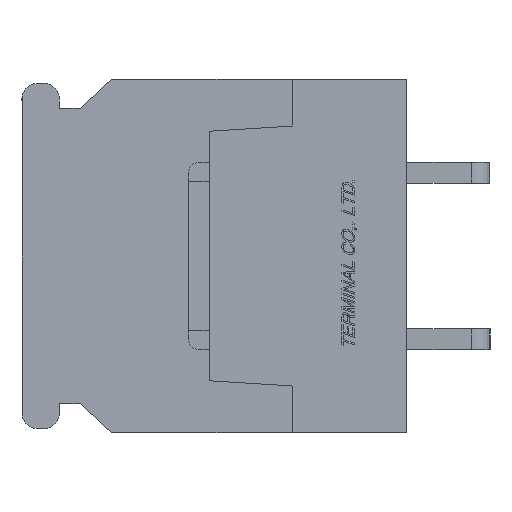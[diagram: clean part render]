
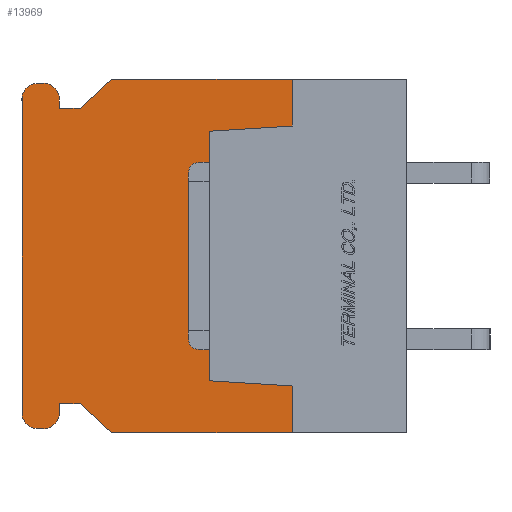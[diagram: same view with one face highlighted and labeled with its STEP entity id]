
A CAD part, left-side view. The second image highlights one B-rep face of the part: STEP entity #13969.
In plain terms, the highlighted planar face has unit normal (-1, 0, 0).
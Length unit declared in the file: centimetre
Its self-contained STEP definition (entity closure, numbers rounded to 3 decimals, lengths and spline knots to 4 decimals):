
#823=CIRCLE('',#23994,0.075);
#824=CIRCLE('',#23995,0.075);
#825=CIRCLE('',#23996,0.075);
#826=CIRCLE('',#23997,0.075);
#1397=VERTEX_POINT('',#19718);
#1398=VERTEX_POINT('',#19720);
#1434=VERTEX_POINT('',#19822);
#1435=VERTEX_POINT('',#19824);
#1525=VERTEX_POINT('',#20134);
#1526=VERTEX_POINT('',#20136);
#1527=VERTEX_POINT('',#20138);
#1528=VERTEX_POINT('',#20140);
#1529=VERTEX_POINT('',#20142);
#1530=VERTEX_POINT('',#20144);
#1531=VERTEX_POINT('',#20146);
#1532=VERTEX_POINT('',#20148);
#1533=VERTEX_POINT('',#20150);
#1534=VERTEX_POINT('',#20152);
#1535=VERTEX_POINT('',#20154);
#1536=VERTEX_POINT('',#20156);
#1537=VERTEX_POINT('',#20158);
#1538=VERTEX_POINT('',#20161);
#1539=VERTEX_POINT('',#20163);
#1540=VERTEX_POINT('',#20165);
#2776=VECTOR('',#16328,1.);
#2825=VECTOR('',#16403,1.);
#2958=VECTOR('',#16659,1.);
#2959=VECTOR('',#16660,1.);
#2960=VECTOR('',#16661,1.);
#2961=VECTOR('',#16662,1.);
#2962=VECTOR('',#16665,1.);
#2963=VECTOR('',#16668,1.);
#2964=VECTOR('',#16671,1.);
#2965=VECTOR('',#16674,1.);
#2966=VECTOR('',#16675,1.);
#2967=VECTOR('',#16676,1.);
#2968=VECTOR('',#16677,1.);
#2969=VECTOR('',#16678,1.);
#2970=VECTOR('',#16679,1.);
#2971=VECTOR('',#16680,1.);
#4370=LINE('',#19719,#2776);
#4419=LINE('',#19823,#2825);
#4552=LINE('',#20133,#2958);
#4553=LINE('',#20135,#2959);
#4554=LINE('',#20137,#2960);
#4555=LINE('',#20139,#2961);
#4556=LINE('',#20143,#2962);
#4557=LINE('',#20147,#2963);
#4558=LINE('',#20151,#2964);
#4559=LINE('',#20155,#2965);
#4560=LINE('',#20157,#2966);
#4561=LINE('',#20159,#2967);
#4562=LINE('',#20160,#2968);
#4563=LINE('',#20162,#2969);
#4564=LINE('',#20164,#2970);
#4565=LINE('',#20166,#2971);
#6234=EDGE_CURVE('',#1397,#1398,#4370,.T.);
#6287=EDGE_CURVE('',#1434,#1435,#4419,.T.);
#6444=EDGE_CURVE('',#1525,#1435,#4552,.T.);
#6445=EDGE_CURVE('',#1526,#1434,#4553,.T.);
#6446=EDGE_CURVE('',#1527,#1526,#4554,.T.);
#6447=EDGE_CURVE('',#1528,#1527,#4555,.T.);
#6448=EDGE_CURVE('',#1529,#1528,#823,.T.);
#6449=EDGE_CURVE('',#1530,#1529,#4556,.T.);
#6450=EDGE_CURVE('',#1531,#1530,#824,.T.);
#6451=EDGE_CURVE('',#1532,#1531,#4557,.T.);
#6452=EDGE_CURVE('',#1533,#1532,#825,.T.);
#6453=EDGE_CURVE('',#1534,#1533,#4558,.T.);
#6454=EDGE_CURVE('',#1535,#1534,#826,.T.);
#6455=EDGE_CURVE('',#1536,#1535,#4559,.T.);
#6456=EDGE_CURVE('',#1537,#1536,#4560,.T.);
#6457=EDGE_CURVE('',#1398,#1537,#4561,.T.);
#6458=EDGE_CURVE('',#1397,#1538,#4562,.T.);
#6459=EDGE_CURVE('',#1538,#1539,#4563,.T.);
#6460=EDGE_CURVE('',#1539,#1540,#4564,.T.);
#6461=EDGE_CURVE('',#1540,#1525,#4565,.T.);
#9470=ORIENTED_EDGE('',*,*,#6444,.T.);
#9471=ORIENTED_EDGE('',*,*,#6287,.F.);
#9472=ORIENTED_EDGE('',*,*,#6445,.F.);
#9473=ORIENTED_EDGE('',*,*,#6446,.F.);
#9474=ORIENTED_EDGE('',*,*,#6447,.F.);
#9475=ORIENTED_EDGE('',*,*,#6448,.F.);
#9476=ORIENTED_EDGE('',*,*,#6449,.F.);
#9477=ORIENTED_EDGE('',*,*,#6450,.F.);
#9478=ORIENTED_EDGE('',*,*,#6451,.F.);
#9479=ORIENTED_EDGE('',*,*,#6452,.F.);
#9480=ORIENTED_EDGE('',*,*,#6453,.F.);
#9481=ORIENTED_EDGE('',*,*,#6454,.F.);
#9482=ORIENTED_EDGE('',*,*,#6455,.F.);
#9483=ORIENTED_EDGE('',*,*,#6456,.F.);
#9484=ORIENTED_EDGE('',*,*,#6457,.F.);
#9485=ORIENTED_EDGE('',*,*,#6234,.F.);
#9486=ORIENTED_EDGE('',*,*,#6458,.T.);
#9487=ORIENTED_EDGE('',*,*,#6459,.T.);
#9488=ORIENTED_EDGE('',*,*,#6460,.T.);
#9489=ORIENTED_EDGE('',*,*,#6461,.T.);
#12237=EDGE_LOOP('',(#9470,#9471,#9472,#9473,#9474,#9475,#9476,#9477,#9478,
#9479,#9480,#9481,#9482,#9483,#9484,#9485,#9486,#9487,#9488,#9489));
#13131=FACE_BOUND('',#12237,.T.);
#13969=ADVANCED_FACE('',(#13131),#14678,.F.);
#14678=PLANE('',#23993);
#16328=DIRECTION('',(0.,1.,0.));
#16403=DIRECTION('',(0.,-1.,0.));
#16658=DIRECTION('',(1.,0.,0.));
#16659=DIRECTION('',(0.,0.,1.));
#16660=DIRECTION('',(0.,-0.731,0.682));
#16661=DIRECTION('',(0.,-1.,0.));
#16662=DIRECTION('',(0.,0.,-1.));
#16663=DIRECTION('',(1.,0.,0.));
#16664=DIRECTION('',(0.,0.,-0.075));
#16665=DIRECTION('',(0.,-1.,0.));
#16666=DIRECTION('',(1.,0.,0.));
#16667=DIRECTION('',(0.,0.,-0.075));
#16668=DIRECTION('',(0.,0.,1.));
#16669=DIRECTION('',(1.,0.,0.));
#16670=DIRECTION('',(0.,0.,-0.075));
#16671=DIRECTION('',(0.,1.,0.));
#16672=DIRECTION('',(1.,0.,0.));
#16673=DIRECTION('',(0.,0.,-0.075));
#16674=DIRECTION('',(0.,0.,-1.));
#16675=DIRECTION('',(0.,1.,0.));
#16676=DIRECTION('',(0.,0.731,0.682));
#16677=DIRECTION('',(0.,0.,1.));
#16678=DIRECTION('',(0.,0.998,0.062));
#16679=DIRECTION('',(0.,0.,1.));
#16680=DIRECTION('',(0.,-0.998,0.062));
#19718=CARTESIAN_POINT('',(-1.,0.55,-0.85));
#19719=CARTESIAN_POINT('',(-1.,0.,-0.85));
#19720=CARTESIAN_POINT('',(-1.,1.42,-0.85));
#19822=CARTESIAN_POINT('',(-1.,1.42,0.85));
#19823=CARTESIAN_POINT('',(-1.,1.42,0.85));
#19824=CARTESIAN_POINT('',(-1.,0.55,0.85));
#20132=CARTESIAN_POINT('',(-1.,0.9383,0.));
#20133=CARTESIAN_POINT('',(-1.,0.55,0.3687));
#20134=CARTESIAN_POINT('',(-1.,0.55,0.625));
#20135=CARTESIAN_POINT('',(-1.,1.57,0.71));
#20136=CARTESIAN_POINT('',(-1.,1.57,0.71));
#20137=CARTESIAN_POINT('',(-1.,1.67,0.71));
#20138=CARTESIAN_POINT('',(-1.,1.67,0.71));
#20139=CARTESIAN_POINT('',(-1.,1.67,0.755));
#20140=CARTESIAN_POINT('',(-1.,1.67,0.755));
#20141=CARTESIAN_POINT('',(-1.,1.745,0.755));
#20142=CARTESIAN_POINT('',(-1.,1.745,0.83));
#20143=CARTESIAN_POINT('',(-1.,1.775,0.83));
#20144=CARTESIAN_POINT('',(-1.,1.775,0.83));
#20145=CARTESIAN_POINT('',(-1.,1.775,0.755));
#20146=CARTESIAN_POINT('',(-1.,1.85,0.755));
#20147=CARTESIAN_POINT('',(-1.,1.85,-0.755));
#20148=CARTESIAN_POINT('',(-1.,1.85,-0.755));
#20149=CARTESIAN_POINT('',(-1.,1.775,-0.755));
#20150=CARTESIAN_POINT('',(-1.,1.775,-0.83));
#20151=CARTESIAN_POINT('',(-1.,1.745,-0.83));
#20152=CARTESIAN_POINT('',(-1.,1.745,-0.83));
#20153=CARTESIAN_POINT('',(-1.,1.745,-0.755));
#20154=CARTESIAN_POINT('',(-1.,1.67,-0.755));
#20155=CARTESIAN_POINT('',(-1.,1.67,-0.71));
#20156=CARTESIAN_POINT('',(-1.,1.67,-0.71));
#20157=CARTESIAN_POINT('',(-1.,1.57,-0.71));
#20158=CARTESIAN_POINT('',(-1.,1.57,-0.71));
#20159=CARTESIAN_POINT('',(-1.,1.42,-0.85));
#20160=CARTESIAN_POINT('',(-1.,0.55,-0.3688));
#20161=CARTESIAN_POINT('',(-1.,0.55,-0.625));
#20162=CARTESIAN_POINT('',(-1.,0.8629,-0.6054));
#20163=CARTESIAN_POINT('',(-1.,0.95,-0.6));
#20164=CARTESIAN_POINT('',(-1.,0.95,0.));
#20165=CARTESIAN_POINT('',(-1.,0.95,0.6));
#20166=CARTESIAN_POINT('',(-1.,0.8629,0.6054));
#23993=AXIS2_PLACEMENT_3D('',#20132,#16658,$);
#23994=AXIS2_PLACEMENT_3D('',#20141,#16663,#16664);
#23995=AXIS2_PLACEMENT_3D('',#20145,#16666,#16667);
#23996=AXIS2_PLACEMENT_3D('',#20149,#16669,#16670);
#23997=AXIS2_PLACEMENT_3D('',#20153,#16672,#16673);
